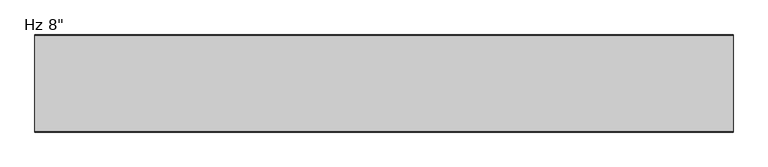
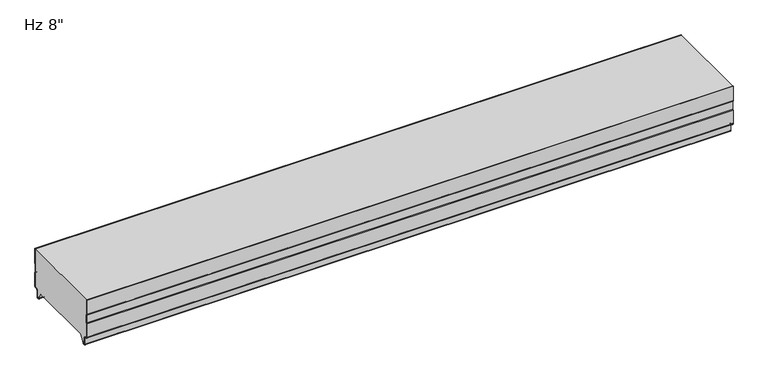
"""IFC4 building model written with IfcOpenShell, lengths in millimetres: plate geometry."""

from ifc_helpers import new_model, si_unit, frame, origin, place, context, project, spatial, polyline, circle_curve, source, transform, mapped, element, save
from ifc_brep_helpers import plane_surface, cylinder_surface, revolved_surface, advanced_brep


def plate_0feda06b(model_context):
    return source(origin(), model_context, "Body", "AdvancedBrep", [
        advanced_brep(
        [(-730.0, -1.0, 59.9218553), (-730.0, -1.0, 94.95), (-730.0, 0.0, 94.95), (-730.0, 0.0, 59.479416), (-730.0, -1.1911595, 58.4068912), (-730.0, -1.1911595, 39.5087751), (-730.0, 0.0, 38.4362503), (-730.0, 0.0, 5.8272193), (-730.0, -2.9772904, 2.8499526), (-730.0, -5.2691742, 2.8499526), (-730.0, -8.2464427, -0.1273159), (-730.0, -8.2464427, -15.7237419), (-730.0, -9.8343193, -17.3116185), (-730.0, -12.905868, -17.3116185), (-730.0, -14.4937445, -15.7237419), (-730.0, -14.4937445, -13.3687064), (-730.0, -13.4937445, -13.3687064), (-730.0, -13.4937445, -15.7237419), (-730.0, -12.905868, -16.3116185), (-730.0, -9.8343193, -16.3116185), (-730.0, -9.2464427, -15.7237419), (-730.0, -9.2464427, -0.1273159), (-730.0, -5.2691742, 3.8499526), (-730.0, -2.9772904, 3.8499526), (-730.0, -1.0000218, 5.82722), (-730.0, -1.0, 37.993811), (-730.0, -2.1911595, 39.0663358), (-730.0, -2.1911595, 58.8493305), (730.0, 0.0, 59.479416), (730.0, 0.0, 94.95), (730.0, -1.0, 94.95), (730.0, -1.0, 59.9218553), (730.0, -2.1911595, 58.8493305), (730.0, -2.1911595, 39.0663358), (730.0, -1.0, 37.993811), (730.0, -1.0, 5.82722), (730.0, -2.9772904, 3.8499526), (730.0, -5.2691742, 3.8499526), (730.0, -9.2464427, -0.1273159), (730.0, -9.2464427, -15.7237419), (730.0, -9.8343193, -16.3116185), (730.0, -12.905868, -16.3116185), (730.0, -13.4937445, -15.7237419), (730.0, -13.4937445, -13.3687064), (730.0, -14.4937445, -13.3687064), (730.0, -14.4937445, -15.7237419), (730.0, -12.905868, -17.3116185), (730.0, -9.8343193, -17.3116185), (730.0, -8.2464427, -15.7237419), (730.0, -8.2464427, -0.1273159), (730.0, -5.2691742, 2.8499526), (730.0, -2.9772904, 2.8499526), (730.0, -2.18e-05, 5.8272193), (730.0, 0.0, 38.4362503), (730.0, -1.1911595, 39.5087751), (730.0, -1.1911595, 58.4068912)],
        [
            (0, 1),
            (1, 2),
            (2, 3),
            (3, 4),
            (4, 5),
            (5, 6),
            (6, 7),
            (7, 8, circle_curve(frame((-730.0, -2.9772904, 5.8272211), z_axis=(-1.0, 0.0, 0.0), x_axis=(0.0, 1.0, 0.0)), 2.9772685)),
            (8, 9),
            (9, 10, circle_curve(frame((-730.0, -5.2691742, -0.1273159), z_axis=(1.0, 0.0, 0.0), x_axis=(0.0, 1.0, 0.0)), 2.9772685)),
            (10, 11),
            (11, 12, circle_curve(frame((-730.0, -9.8343193, -15.7237419), z_axis=(-1.0, 0.0, 0.0), x_axis=(0.0, 1.0, 0.0)), 1.5878765)),
            (12, 13),
            (13, 14, circle_curve(frame((-730.0, -12.905868, -15.7237419), z_axis=(-1.0, 0.0, 0.0), x_axis=(0.0, 1.0, 0.0)), 1.5878765)),
            (14, 15),
            (15, 16),
            (16, 17),
            (17, 18, circle_curve(frame((-730.0, -12.905868, -15.7237419), z_axis=(1.0, 0.0, 0.0), x_axis=(0.0, 1.0, 0.0)), 0.5878765)),
            (18, 19),
            (19, 20, circle_curve(frame((-730.0, -9.8343193, -15.7237419), z_axis=(1.0, 0.0, 0.0), x_axis=(0.0, 1.0, 0.0)), 0.5878765)),
            (20, 21),
            (21, 22, circle_curve(frame((-730.0, -5.2691742, -0.1273159), z_axis=(-1.0, 0.0, 0.0), x_axis=(0.0, 1.0, 0.0)), 3.9772685)),
            (22, 23),
            (23, 24, circle_curve(frame((-730.0, -2.9772904, 5.8272212), z_axis=(1.0, 0.0, 0.0), x_axis=(0.0, 1.0, 0.0)), 1.9772685)),
            (24, 25),
            (25, 26),
            (26, 27),
            (27, 0),
            (28, 29),
            (29, 30),
            (30, 31),
            (31, 32),
            (32, 33),
            (33, 34),
            (34, 35),
            (35, 36, circle_curve(frame((730.0, -2.9772904, 5.8272212), z_axis=(-1.0, 0.0, 0.0), x_axis=(0.0, 1.0, 0.0)), 1.9772685)),
            (36, 37),
            (37, 38, circle_curve(frame((730.0, -5.2691742, -0.1273159), z_axis=(1.0, 0.0, 0.0), x_axis=(0.0, 1.0, 0.0)), 3.9772685)),
            (38, 39),
            (39, 40, circle_curve(frame((730.0, -9.8343193, -15.7237419), z_axis=(-1.0, 0.0, 0.0), x_axis=(0.0, 1.0, 0.0)), 0.5878765)),
            (40, 41),
            (41, 42, circle_curve(frame((730.0, -12.905868, -15.7237419), z_axis=(-1.0, 0.0, 0.0), x_axis=(0.0, 1.0, 0.0)), 0.5878765)),
            (42, 43),
            (43, 44),
            (44, 45),
            (45, 46, circle_curve(frame((730.0, -12.905868, -15.7237419), z_axis=(1.0, 0.0, 0.0), x_axis=(0.0, 1.0, 0.0)), 1.5878765)),
            (46, 47),
            (47, 48, circle_curve(frame((730.0, -9.8343193, -15.7237419), z_axis=(1.0, 0.0, 0.0), x_axis=(0.0, 1.0, 0.0)), 1.5878765)),
            (48, 49),
            (49, 50, circle_curve(frame((730.0, -5.2691742, -0.1273159), z_axis=(-1.0, 0.0, 0.0), x_axis=(0.0, 1.0, 0.0)), 2.9772685)),
            (50, 51),
            (51, 52, circle_curve(frame((730.0, -2.9772904, 5.8272211), z_axis=(1.0, 0.0, 0.0), x_axis=(0.0, 1.0, 0.0)), 2.9772685)),
            (52, 53),
            (53, 54),
            (54, 55),
            (55, 28),
            (30, 1),
            (0, 31),
            (27, 32),
            (26, 33),
            (25, 34),
            (24, 35),
            (23, 36),
            (22, 37),
            (21, 38),
            (20, 39),
            (19, 40),
            (18, 41),
            (17, 42),
            (16, 43),
            (15, 44),
            (14, 45),
            (13, 46),
            (12, 47),
            (11, 48),
            (10, 49),
            (9, 50),
            (8, 51),
            (7, 52),
            (6, 53),
            (5, 54),
            (4, 55),
            (3, 28),
            (2, 29),
        ],
        [
            plane_surface(frame((-730.0, 0.0, 576.2625), z_axis=(-1.0, 0.0, 0.0), x_axis=(0.0, 1.0, 0.0))),
            plane_surface(frame((730.0, 0.0, 576.2625), z_axis=(1.0, 0.0, 0.0), x_axis=(0.0, 1.0, 0.0))),
            plane_surface(frame((-730.0, -1.0, 113.6164312), z_axis=(0.0, -1.0, 0.0), x_axis=(1.0, 0.0, 0.0))),
            plane_surface(frame((-730.0, -1.0, 59.9218553), z_axis=(0.0, -0.6691306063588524, 0.7431448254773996), x_axis=(1.0, 0.0, 0.0))),
            plane_surface(frame((-730.0, -2.1911595, 58.8493305), z_axis=(0.0, -1.0, 0.0), x_axis=(1.0, 0.0, 0.0))),
            plane_surface(frame((-730.0, -2.1911595, 39.0663358), z_axis=(0.0, -0.6691306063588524, -0.7431448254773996), x_axis=(1.0, 0.0, 0.0))),
            plane_surface(frame((-730.0, -1.0, 37.993811), z_axis=(0.0, -1.0, 0.0), x_axis=(1.0, 0.0, 0.0))),
            revolved_surface(polyline([(730.0, -1.0000218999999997, 5.8272212), (-730.0, -1.0000218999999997, 5.8272212)]), (-730.0, -2.9772904, 5.8272212), (1.0, 0.0, 0.0)),
            plane_surface(frame((-730.0, -2.9772904, 3.8499526), z_axis=(0.0, 0.0, 1.0), x_axis=(1.0, 0.0, 0.0))),
            cylinder_surface(frame((-730.0, -5.2691742, -0.1273159), z_axis=(-1.0, 0.0, 0.0), x_axis=(0.0, 1.0, 0.0)), 3.9772685),
            plane_surface(frame((-730.0, -9.2464427, -0.1273159), z_axis=(0.0, -1.0, 0.0), x_axis=(1.0, 0.0, 0.0))),
            revolved_surface(polyline([(730.0, -9.2464428, -15.7237419), (-730.0, -9.2464428, -15.7237419)]), (-730.0, -9.8343193, -15.7237419), (1.0, 0.0, 0.0)),
            plane_surface(frame((-730.0, -9.8343193, -16.3116185), z_axis=(0.0, 0.0, 1.0), x_axis=(1.0, 0.0, 0.0))),
            revolved_surface(polyline([(730.0, -12.3179915, -15.7237419), (-730.0, -12.3179915, -15.7237419)]), (-730.0, -12.905868, -15.7237419), (1.0, 0.0, 0.0)),
            plane_surface(frame((-730.0, -13.4937445, -15.7237419), z_axis=(0.0, 1.0, 0.0), x_axis=(1.0, 0.0, 0.0))),
            plane_surface(frame((-730.0, -13.4937445, -13.3687064), z_axis=(0.0, 0.0, 1.0), x_axis=(1.0, 0.0, 0.0))),
            plane_surface(frame((-730.0, -14.4937445, -13.3687064), z_axis=(0.0, -1.0, 0.0), x_axis=(1.0, 0.0, 0.0))),
            cylinder_surface(frame((-730.0, -12.905868, -15.7237419), z_axis=(-1.0, 0.0, 0.0), x_axis=(0.0, 1.0, 0.0)), 1.5878765),
            plane_surface(frame((-730.0, -12.905868, -17.3116185), z_axis=(0.0, 0.0, -1.0), x_axis=(1.0, 0.0, 0.0))),
            cylinder_surface(frame((-730.0, -9.8343193, -15.7237419), z_axis=(-1.0, 0.0, 0.0), x_axis=(0.0, 1.0, 0.0)), 1.5878765),
            plane_surface(frame((-730.0, -8.2464427, -15.7237419), z_axis=(0.0, 1.0, 0.0), x_axis=(1.0, 0.0, 0.0))),
            revolved_surface(polyline([(730.0, -2.2919057, -0.1273159), (-730.0, -2.2919057, -0.1273159)]), (-730.0, -5.2691742, -0.1273159), (1.0, 0.0, 0.0)),
            plane_surface(frame((-730.0, -5.2691742, 2.8499526), z_axis=(0.0, 0.0, -1.0), x_axis=(1.0, 0.0, 0.0))),
            cylinder_surface(frame((-730.0, -2.9772904, 5.8272211), z_axis=(-1.0, 0.0, 0.0), x_axis=(0.0, 1.0, 0.0)), 2.9772685),
            plane_surface(frame((-730.0, 0.0, 5.8272193), z_axis=(0.0, 1.0, 0.0), x_axis=(1.0, 0.0, 0.0))),
            plane_surface(frame((-730.0, 0.0, 38.4362503), z_axis=(0.0, 0.6691306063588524, 0.7431448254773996), x_axis=(1.0, 0.0, 0.0))),
            plane_surface(frame((-730.0, -1.1911595, 39.5087751), z_axis=(0.0, 1.0, 0.0), x_axis=(1.0, 0.0, 0.0))),
            plane_surface(frame((-730.0, -1.1911595, 58.4068912), z_axis=(0.0, 0.6691306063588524, -0.7431448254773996), x_axis=(1.0, 0.0, 0.0))),
            plane_surface(frame((-730.0, 0.0, 59.479416), z_axis=(0.0, 1.0, 0.0), x_axis=(1.0, 0.0, 0.0))),
            plane_surface(frame((730.0, 10.0, 94.95), z_axis=(0.0, 0.0, 1.0), x_axis=(-1.0, 0.0, 0.0))),
        ],
        [
            (0, [[1, 2, 3, 4, 5, 6, 7, 8, 9, 10, 11, 12, 13, 14, 15, 16, 17, 18, 19, 20, 21, 22, 23, 24, 25, 26, 27, 28]]),
            (1, [[29, 30, 31, 32, 33, 34, 35, 36, 37, 38, 39, 40, 41, 42, 43, 44, 45, 46, 47, 48, 49, 50, 51, 52, 53, 54, 55, 56]]),
            (2, [[-31, 57, -1, 58]]),
            (3, [[59, -32, -58, -28]]),
            (4, [[60, -33, -59, -27]]),
            (5, [[61, -34, -60, -26]]),
            (6, [[62, -35, -61, -25]]),
            (7, [[63, -36, -62, -24]]),
            (8, [[64, -37, -63, -23]]),
            (9, [[65, -38, -64, -22]]),
            (10, [[66, -39, -65, -21]]),
            (11, [[67, -40, -66, -20]]),
            (12, [[68, -41, -67, -19]]),
            (13, [[69, -42, -68, -18]]),
            (14, [[70, -43, -69, -17]]),
            (15, [[71, -44, -70, -16]]),
            (16, [[72, -45, -71, -15]]),
            (17, [[73, -46, -72, -14]]),
            (18, [[74, -47, -73, -13]]),
            (19, [[75, -48, -74, -12]]),
            (20, [[76, -49, -75, -11]]),
            (21, [[77, -50, -76, -10]]),
            (22, [[78, -51, -77, -9]]),
            (23, [[79, -52, -78, -8]]),
            (24, [[80, -53, -79, -7]]),
            (25, [[81, -54, -80, -6]]),
            (26, [[82, -55, -81, -5]]),
            (27, [[83, -56, -82, -4]]),
            (28, [[-3, 84, -29, -83]]),
            (29, [[-57, -30, -84, -2]]),
        ],
    ),
        advanced_brep(
        [(-730.0, -203.2, 59.479416), (-730.0, -203.2, 94.95), (-730.0, -202.2, 94.95), (-730.0, -202.2, 59.9218553), (-730.0, -201.0088405, 58.8493305), (-730.0, -201.0088405, 39.0663358), (-730.0, -202.2, 37.993811), (-730.0, -202.2, 5.82722), (-730.0, -200.2227096, 3.8499526), (-730.0, -197.9308258, 3.8499526), (-730.0, -193.9535573, -0.1273159), (-730.0, -193.9535573, -15.7237419), (-730.0, -193.3656807, -16.3116185), (-730.0, -190.294132, -16.3116185), (-730.0, -189.7062555, -15.7237419), (-730.0, -189.7062555, -13.3687064), (-730.0, -188.7062555, -13.3687064), (-730.0, -188.7062555, -15.7237419), (-730.0, -190.294132, -17.3116185), (-730.0, -193.3656807, -17.3116185), (-730.0, -194.9535573, -15.7237419), (-730.0, -194.9535573, -0.1273159), (-730.0, -197.9308258, 2.8499526), (-730.0, -200.2227096, 2.8499526), (-730.0, -203.1999782, 5.8272193), (-730.0, -203.2, 38.4362503), (-730.0, -202.0088405, 39.5087751), (-730.0, -202.0088405, 58.4068912), (730.0, -202.2, 59.9218553), (730.0, -202.2, 94.95), (730.0, -203.2, 94.95), (730.0, -203.2, 59.479416), (730.0, -202.0088405, 58.4068912), (730.0, -202.0088405, 39.5087751), (730.0, -203.2, 38.4362503), (730.0, -203.2, 5.8272193), (730.0, -200.2227096, 2.8499526), (730.0, -197.9308258, 2.8499526), (730.0, -194.9535573, -0.1273159), (730.0, -194.9535573, -15.7237419), (730.0, -193.3656807, -17.3116185), (730.0, -190.294132, -17.3116185), (730.0, -188.7062555, -15.7237419), (730.0, -188.7062555, -13.3687064), (730.0, -189.7062555, -13.3687064), (730.0, -189.7062555, -15.7237419), (730.0, -190.294132, -16.3116185), (730.0, -193.3656807, -16.3116185), (730.0, -193.9535573, -15.7237419), (730.0, -193.9535573, -0.1273159), (730.0, -197.9308258, 3.8499526), (730.0, -200.2227096, 3.8499526), (730.0, -202.1999782, 5.82722), (730.0, -202.2, 37.993811), (730.0, -201.0088405, 39.0663358), (730.0, -201.0088405, 58.8493305)],
        [
            (0, 1),
            (1, 2),
            (2, 3),
            (3, 4),
            (4, 5),
            (5, 6),
            (6, 7),
            (7, 8, circle_curve(frame((-730.0, -200.2227096, 5.8272212), z_axis=(1.0, 0.0, 0.0), x_axis=(0.0, 0.0, -1.0)), 1.9772685)),
            (8, 9),
            (9, 10, circle_curve(frame((-730.0, -197.9308258, -0.1273159), z_axis=(-1.0, 0.0, 0.0), x_axis=(0.0, 0.0, -1.0)), 3.9772685)),
            (10, 11),
            (11, 12, circle_curve(frame((-730.0, -193.3656807, -15.7237419), z_axis=(1.0, 0.0, 0.0), x_axis=(0.0, 0.0, -1.0)), 0.5878765)),
            (12, 13),
            (13, 14, circle_curve(frame((-730.0, -190.294132, -15.7237419), z_axis=(1.0, 0.0, 0.0), x_axis=(0.0, 0.0, -1.0)), 0.5878765)),
            (14, 15),
            (15, 16),
            (16, 17),
            (17, 18, circle_curve(frame((-730.0, -190.294132, -15.7237419), z_axis=(-1.0, 0.0, 0.0), x_axis=(0.0, 0.0, -1.0)), 1.5878765)),
            (18, 19),
            (19, 20, circle_curve(frame((-730.0, -193.3656807, -15.7237419), z_axis=(-1.0, 0.0, 0.0), x_axis=(0.0, 0.0, -1.0)), 1.5878765)),
            (20, 21),
            (21, 22, circle_curve(frame((-730.0, -197.9308258, -0.1273159), z_axis=(1.0, 0.0, 0.0), x_axis=(0.0, 0.0, -1.0)), 2.9772685)),
            (22, 23),
            (23, 24, circle_curve(frame((-730.0, -200.2227096, 5.8272211), z_axis=(-1.0, 0.0, 0.0), x_axis=(0.0, 0.0, -1.0)), 2.9772685)),
            (24, 25),
            (25, 26),
            (26, 27),
            (27, 0),
            (28, 29),
            (29, 30),
            (30, 31),
            (31, 32),
            (32, 33),
            (33, 34),
            (34, 35),
            (35, 36, circle_curve(frame((730.0, -200.2227096, 5.8272211), z_axis=(1.0, 0.0, 0.0), x_axis=(0.0, 0.0, -1.0)), 2.9772685)),
            (36, 37),
            (37, 38, circle_curve(frame((730.0, -197.9308258, -0.1273159), z_axis=(-1.0, 0.0, 0.0), x_axis=(0.0, 0.0, -1.0)), 2.9772685)),
            (38, 39),
            (39, 40, circle_curve(frame((730.0, -193.3656807, -15.7237419), z_axis=(1.0, 0.0, 0.0), x_axis=(0.0, 0.0, -1.0)), 1.5878765)),
            (40, 41),
            (41, 42, circle_curve(frame((730.0, -190.294132, -15.7237419), z_axis=(1.0, 0.0, 0.0), x_axis=(0.0, 0.0, -1.0)), 1.5878765)),
            (42, 43),
            (43, 44),
            (44, 45),
            (45, 46, circle_curve(frame((730.0, -190.294132, -15.7237419), z_axis=(-1.0, 0.0, 0.0), x_axis=(0.0, 0.0, -1.0)), 0.5878765)),
            (46, 47),
            (47, 48, circle_curve(frame((730.0, -193.3656807, -15.7237419), z_axis=(-1.0, 0.0, 0.0), x_axis=(0.0, 0.0, -1.0)), 0.5878765)),
            (48, 49),
            (49, 50, circle_curve(frame((730.0, -197.9308258, -0.1273159), z_axis=(1.0, 0.0, 0.0), x_axis=(0.0, 0.0, -1.0)), 3.9772685)),
            (50, 51),
            (51, 52, circle_curve(frame((730.0, -200.2227096, 5.8272212), z_axis=(-1.0, 0.0, 0.0), x_axis=(0.0, 0.0, -1.0)), 1.9772685)),
            (52, 53),
            (53, 54),
            (54, 55),
            (55, 28),
            (1, 30),
            (29, 2),
            (0, 31),
            (27, 32),
            (26, 33),
            (25, 34),
            (24, 35),
            (23, 36),
            (22, 37),
            (21, 38),
            (20, 39),
            (19, 40),
            (18, 41),
            (17, 42),
            (16, 43),
            (15, 44),
            (14, 45),
            (13, 46),
            (12, 47),
            (11, 48),
            (10, 49),
            (9, 50),
            (8, 51),
            (7, 52),
            (6, 53),
            (5, 54),
            (4, 55),
            (3, 28),
        ],
        [
            plane_surface(frame((-730.0, -203.2, 576.2625), z_axis=(-1.0, 0.0, 0.0), x_axis=(0.0, -1.0, 0.0))),
            plane_surface(frame((730.0, -203.2, 576.2625), z_axis=(1.0, 0.0, 0.0), x_axis=(0.0, -1.0, 0.0))),
            plane_surface(frame((730.0, 10.0, 94.95), z_axis=(0.0, 0.0, 1.0), x_axis=(-1.0, 0.0, 0.0))),
            plane_surface(frame((-730.0, -203.2, 114.0588705), z_axis=(0.0, -1.0, 0.0), x_axis=(1.0, 0.0, 0.0))),
            plane_surface(frame((-730.0, -203.2, 59.479416), z_axis=(0.0, -0.6691306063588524, -0.7431448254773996), x_axis=(1.0, 0.0, 0.0))),
            plane_surface(frame((-730.0, -202.0088405, 58.4068912), z_axis=(0.0, -1.0, 0.0), x_axis=(1.0, 0.0, 0.0))),
            plane_surface(frame((-730.0, -202.0088405, 39.5087751), z_axis=(0.0, -0.6691306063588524, 0.7431448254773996), x_axis=(1.0, 0.0, 0.0))),
            plane_surface(frame((-730.0, -203.2, 38.4362503), z_axis=(0.0, -1.0, 0.0), x_axis=(1.0, 0.0, 0.0))),
            cylinder_surface(frame((-730.0, -200.2227096, 5.8272211), z_axis=(-1.0, 0.0, 0.0), x_axis=(0.0, 0.0, -1.0)), 2.9772685),
            plane_surface(frame((-730.0, -200.2227096, 2.8499526), z_axis=(0.0, 0.0, -1.0), x_axis=(1.0, 0.0, 0.0))),
            revolved_surface(polyline([(730.0, -197.9308258, -3.1045844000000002), (-730.0, -197.9308258, -3.1045844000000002)]), (-730.0, -197.9308258, -0.1273159), (1.0, 0.0, 0.0)),
            plane_surface(frame((-730.0, -194.9535573, -0.1273159), z_axis=(0.0, -1.0, 0.0), x_axis=(1.0, 0.0, 0.0))),
            cylinder_surface(frame((-730.0, -193.3656807, -15.7237419), z_axis=(-1.0, 0.0, 0.0), x_axis=(0.0, 0.0, -1.0)), 1.5878765),
            plane_surface(frame((-730.0, -193.3656807, -17.3116185), z_axis=(0.0, 0.0, -1.0), x_axis=(1.0, 0.0, 0.0))),
            cylinder_surface(frame((-730.0, -190.294132, -15.7237419), z_axis=(-1.0, 0.0, 0.0), x_axis=(0.0, 0.0, -1.0)), 1.5878765),
            plane_surface(frame((-730.0, -188.7062555, -15.7237419), z_axis=(0.0, 1.0, 0.0), x_axis=(1.0, 0.0, 0.0))),
            plane_surface(frame((-730.0, -188.7062555, -13.3687064), z_axis=(0.0, 0.0, 1.0), x_axis=(1.0, 0.0, 0.0))),
            plane_surface(frame((-730.0, -189.7062555, -13.3687064), z_axis=(0.0, -1.0, 0.0), x_axis=(1.0, 0.0, 0.0))),
            revolved_surface(polyline([(730.0, -190.294132, -16.3116184), (-730.0, -190.294132, -16.3116184)]), (-730.0, -190.294132, -15.7237419), (1.0, 0.0, 0.0)),
            plane_surface(frame((-730.0, -190.294132, -16.3116185), z_axis=(0.0, 0.0, 1.0), x_axis=(1.0, 0.0, 0.0))),
            revolved_surface(polyline([(730.0, -193.3656807, -16.3116184), (-730.0, -193.3656807, -16.3116184)]), (-730.0, -193.3656807, -15.7237419), (1.0, 0.0, 0.0)),
            plane_surface(frame((-730.0, -193.9535573, -15.7237419), z_axis=(0.0, 1.0, 0.0), x_axis=(1.0, 0.0, 0.0))),
            cylinder_surface(frame((-730.0, -197.9308258, -0.1273159), z_axis=(-1.0, 0.0, 0.0), x_axis=(0.0, 0.0, -1.0)), 3.9772685),
            plane_surface(frame((-730.0, -197.9308258, 3.8499526), z_axis=(0.0, 0.0, 1.0), x_axis=(1.0, 0.0, 0.0))),
            revolved_surface(polyline([(730.0, -200.2227096, 3.8499527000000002), (-730.0, -200.2227096, 3.8499527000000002)]), (-730.0, -200.2227096, 5.8272212), (1.0, 0.0, 0.0)),
            plane_surface(frame((-730.0, -202.2, 5.82722), z_axis=(0.0, 1.0, 0.0), x_axis=(1.0, 0.0, 0.0))),
            plane_surface(frame((-730.0, -202.2, 37.993811), z_axis=(0.0, 0.6691306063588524, -0.7431448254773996), x_axis=(1.0, 0.0, 0.0))),
            plane_surface(frame((-730.0, -201.0088405, 39.0663358), z_axis=(0.0, 1.0, 0.0), x_axis=(1.0, 0.0, 0.0))),
            plane_surface(frame((-730.0, -201.0088405, 58.8493305), z_axis=(0.0, 0.6691306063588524, 0.7431448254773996), x_axis=(1.0, 0.0, 0.0))),
            plane_surface(frame((-730.0, -202.2, 59.9218553), z_axis=(0.0, 1.0, 0.0), x_axis=(1.0, 0.0, 0.0))),
        ],
        [
            (0, [[1, 2, 3, 4, 5, 6, 7, 8, 9, 10, 11, 12, 13, 14, 15, 16, 17, 18, 19, 20, 21, 22, 23, 24, 25, 26, 27, 28]]),
            (1, [[29, 30, 31, 32, 33, 34, 35, 36, 37, 38, 39, 40, 41, 42, 43, 44, 45, 46, 47, 48, 49, 50, 51, 52, 53, 54, 55, 56]]),
            (2, [[57, -30, 58, -2]]),
            (3, [[-31, -57, -1, 59]]),
            (4, [[60, -32, -59, -28]]),
            (5, [[61, -33, -60, -27]]),
            (6, [[62, -34, -61, -26]]),
            (7, [[63, -35, -62, -25]]),
            (8, [[64, -36, -63, -24]]),
            (9, [[65, -37, -64, -23]]),
            (10, [[66, -38, -65, -22]]),
            (11, [[67, -39, -66, -21]]),
            (12, [[68, -40, -67, -20]]),
            (13, [[69, -41, -68, -19]]),
            (14, [[70, -42, -69, -18]]),
            (15, [[71, -43, -70, -17]]),
            (16, [[72, -44, -71, -16]]),
            (17, [[73, -45, -72, -15]]),
            (18, [[74, -46, -73, -14]]),
            (19, [[75, -47, -74, -13]]),
            (20, [[76, -48, -75, -12]]),
            (21, [[77, -49, -76, -11]]),
            (22, [[78, -50, -77, -10]]),
            (23, [[79, -51, -78, -9]]),
            (24, [[80, -52, -79, -8]]),
            (25, [[81, -53, -80, -7]]),
            (26, [[82, -54, -81, -6]]),
            (27, [[83, -55, -82, -5]]),
            (28, [[84, -56, -83, -4]]),
            (29, [[-3, -58, -29, -84]]),
        ],
    ),
        advanced_brep(
        [(-730.0, -202.2, 59.9218553), (-730.0, -202.2, 94.95), (-730.0, -1.0, 94.95), (-730.0, -1.0, 59.9218553), (-730.0, -2.1911595, 58.8493305), (-730.0, -2.1911595, 39.0663358), (-730.0, -1.0000109, 37.993811), (-730.0, -1.0000109, 5.8272239), (-730.0, -2.9772849, 3.8499499), (-730.0, -5.2691749, 3.8499499), (-730.0, -9.246442, -0.1273173), (-730.0, -9.246442, -15.7237417), (-730.0, -9.8343189, -16.3116186), (-730.0, -12.9058679, -16.3116186), (-730.0, -13.4937446, -15.723742), (-730.0, -13.4937446, -13.3687064), (-730.0, -14.4937446, -13.3687064), (-730.0, -14.4937446, -15.6582851), (-730.0, -23.7509179, 0.0), (-730.0, -179.4490865, 0.0), (-730.0, -188.7062554, -15.6582851), (-730.0, -188.7062554, -13.3687064), (-730.0, -189.7062554, -13.3687064), (-730.0, -189.7062554, -15.723742), (-730.0, -190.2941321, -16.3116186), (-730.0, -193.3656811, -16.3116186), (-730.0, -193.953558, -15.7237417), (-730.0, -193.953558, -0.1273173), (-730.0, -197.9308251, 3.8499499), (-730.0, -200.2227151, 3.8499499), (-730.0, -202.1999891, 5.8272239), (-730.0, -202.1999891, 37.993811), (-730.0, -201.0088405, 39.0663358), (-730.0, -201.0088405, 58.8493305), (730.0, -179.4490865, 0.0), (730.0, -23.7509179, 0.0), (730.0, -14.4937446, -15.6582851), (730.0, -14.4937446, -13.3687064), (730.0, -13.4937446, -13.3687064), (730.0, -13.4937446, -15.723742), (730.0, -12.9058679, -16.3116186), (730.0, -9.8343189, -16.3116186), (730.0, -9.246442, -15.7237417), (730.0, -9.246442, -0.1273173), (730.0, -5.2691749, 3.8499499), (730.0, -2.9772849, 3.8499499), (730.0, -1.0000109, 5.8272239), (730.0, -1.0000109, 37.993811), (730.0, -2.1911595, 39.0663358), (730.0, -2.1911595, 58.8493305), (730.0, -1.0, 59.9218553), (730.0, -1.0, 94.95), (730.0, -202.2, 94.95), (730.0, -202.2, 59.9218553), (730.0, -201.0088405, 58.8493305), (730.0, -201.0088405, 39.0663358), (730.0, -202.1999891, 37.993811), (730.0, -202.1999891, 5.8272239), (730.0, -200.2227151, 3.8499499), (730.0, -197.9308251, 3.8499499), (730.0, -193.953558, -0.1273173), (730.0, -193.953558, -15.7237417), (730.0, -193.3656811, -16.3116186), (730.0, -190.2941321, -16.3116186), (730.0, -189.7062554, -15.723742), (730.0, -189.7062554, -13.3687064), (730.0, -188.7062554, -13.3687064), (730.0, -188.7062554, -15.6582851)],
        [
            (0, 1),
            (1, 2),
            (2, 3),
            (3, 4),
            (4, 5),
            (5, 6),
            (6, 7),
            (7, 8, circle_curve(frame((-730.0, -2.9772849, 5.8272239), z_axis=(-1.0, 0.0, 0.0), x_axis=(0.0, 1.0, 0.0)), 1.977274)),
            (8, 9),
            (9, 10, circle_curve(frame((-730.0, -5.2691749, -0.1273173), z_axis=(1.0, 0.0, 0.0), x_axis=(0.0, 1.0, 0.0)), 3.9772671)),
            (10, 11),
            (11, 12, circle_curve(frame((-730.0, -9.8343189, -15.7237417), z_axis=(-1.0, 0.0, 0.0), x_axis=(0.0, 1.0, 0.0)), 0.5878769)),
            (12, 13),
            (13, 14, circle_curve(frame((-730.0, -12.9058679, -15.723742), z_axis=(-1.0, 0.0, 0.0), x_axis=(0.0, 1.0, 0.0)), 0.5878766)),
            (14, 15),
            (15, 16),
            (16, 17),
            (17, 18),
            (18, 19),
            (19, 20),
            (20, 21),
            (21, 22),
            (22, 23),
            (23, 24, circle_curve(frame((-730.0, -190.2941321, -15.723742), z_axis=(-1.0, 0.0, 0.0), x_axis=(0.0, 0.0, -1.0)), 0.5878766)),
            (24, 25),
            (25, 26, circle_curve(frame((-730.0, -193.3656811, -15.7237417), z_axis=(-1.0, 0.0, 0.0), x_axis=(0.0, 0.0, -1.0)), 0.5878769)),
            (26, 27),
            (27, 28, circle_curve(frame((-730.0, -197.9308251, -0.1273173), z_axis=(1.0, 0.0, 0.0), x_axis=(0.0, 0.0, -1.0)), 3.9772671)),
            (28, 29),
            (29, 30, circle_curve(frame((-730.0, -200.2227151, 5.8272239), z_axis=(-1.0, 0.0, 0.0), x_axis=(0.0, 0.0, -1.0)), 1.977274)),
            (30, 31),
            (31, 32),
            (32, 33),
            (33, 0),
            (34, 35),
            (35, 36),
            (36, 37),
            (37, 38),
            (38, 39),
            (39, 40, circle_curve(frame((730.0, -12.9058679, -15.723742), z_axis=(1.0, 0.0, 0.0), x_axis=(0.0, 1.0, 0.0)), 0.5878766)),
            (40, 41),
            (41, 42, circle_curve(frame((730.0, -9.8343189, -15.7237417), z_axis=(1.0, 0.0, 0.0), x_axis=(0.0, 1.0, 0.0)), 0.5878769)),
            (42, 43),
            (43, 44, circle_curve(frame((730.0, -5.2691749, -0.1273173), z_axis=(-1.0, 0.0, 0.0), x_axis=(0.0, 1.0, 0.0)), 3.9772671)),
            (44, 45),
            (45, 46, circle_curve(frame((730.0, -2.9772849, 5.8272239), z_axis=(1.0, 0.0, 0.0), x_axis=(0.0, 1.0, 0.0)), 1.977274)),
            (46, 47),
            (47, 48),
            (48, 49),
            (49, 50),
            (50, 51),
            (51, 52),
            (52, 53),
            (53, 54),
            (54, 55),
            (55, 56),
            (56, 57),
            (57, 58, circle_curve(frame((730.0, -200.2227151, 5.8272239), z_axis=(1.0, 0.0, 0.0), x_axis=(0.0, 0.0, -1.0)), 1.977274)),
            (58, 59),
            (59, 60, circle_curve(frame((730.0, -197.9308251, -0.1273173), z_axis=(-1.0, 0.0, 0.0), x_axis=(0.0, 0.0, -1.0)), 3.9772671)),
            (60, 61),
            (61, 62, circle_curve(frame((730.0, -193.3656811, -15.7237417), z_axis=(1.0, 0.0, 0.0), x_axis=(0.0, 0.0, -1.0)), 0.5878769)),
            (62, 63),
            (63, 64, circle_curve(frame((730.0, -190.2941321, -15.723742), z_axis=(1.0, 0.0, 0.0), x_axis=(0.0, 0.0, -1.0)), 0.5878766)),
            (64, 65),
            (65, 66),
            (66, 67),
            (67, 34),
            (17, 36),
            (35, 18),
            (16, 37),
            (15, 38),
            (14, 39),
            (13, 40),
            (12, 41),
            (11, 42),
            (10, 43),
            (9, 44),
            (8, 45),
            (7, 46),
            (6, 47),
            (5, 48),
            (4, 49),
            (3, 50),
            (2, 51),
            (34, 19),
            (1, 52),
            (0, 53),
            (33, 54),
            (32, 55),
            (31, 56),
            (30, 57),
            (29, 58),
            (28, 59),
            (27, 60),
            (26, 61),
            (25, 62),
            (24, 63),
            (23, 64),
            (22, 65),
            (21, 66),
            (20, 67),
        ],
        [
            plane_surface(frame((-730.0, -202.2, 576.2625), z_axis=(-1.0, 0.0, 0.0), x_axis=(0.0, -1.0, 0.0))),
            plane_surface(frame((730.0, -202.2, 576.2625), z_axis=(1.0, 0.0, 0.0), x_axis=(0.0, -1.0, 0.0))),
            plane_surface(frame((-730.0, -23.7509179, 0.0), z_axis=(0.0, -0.8608169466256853, -0.5089147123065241), x_axis=(1.0, 0.0, 0.0))),
            plane_surface(frame((-730.0, -14.4937446, -15.6582851), z_axis=(0.0, 1.0, 0.0), x_axis=(1.0, 0.0, 0.0))),
            plane_surface(frame((-730.0, -14.4937446, -13.3687064), z_axis=(0.0, 0.0, -1.0), x_axis=(1.0, 0.0, 0.0))),
            plane_surface(frame((-730.0, -13.4937446, -13.3687064), z_axis=(0.0, -1.0, 0.0), x_axis=(1.0, 0.0, 0.0))),
            cylinder_surface(frame((-730.0, -12.9058679, -15.723742), z_axis=(-1.0, 0.0, 0.0), x_axis=(0.0, 1.0, 0.0)), 0.5878766),
            plane_surface(frame((-730.0, -12.9058679, -16.3116186), z_axis=(0.0, 0.0, -1.0), x_axis=(1.0, 0.0, 0.0))),
            cylinder_surface(frame((-730.0, -9.8343189, -15.7237417), z_axis=(-1.0, 0.0, 0.0), x_axis=(0.0, 1.0, 0.0)), 0.5878769),
            plane_surface(frame((-730.0, -9.246442, -15.7237417), z_axis=(0.0, 1.0, 0.0), x_axis=(1.0, 0.0, 0.0))),
            revolved_surface(polyline([(730.0, -1.2919078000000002, -0.1273173), (-730.0, -1.2919078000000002, -0.1273173)]), (-730.0, -5.2691749, -0.1273173), (1.0, 0.0, 0.0)),
            plane_surface(frame((-730.0, -5.2691749, 3.8499499), z_axis=(0.0, 0.0, -1.0), x_axis=(1.0, 0.0, 0.0))),
            cylinder_surface(frame((-730.0, -2.9772849, 5.8272239), z_axis=(-1.0, 0.0, 0.0), x_axis=(0.0, 1.0, 0.0)), 1.977274),
            plane_surface(frame((-730.0, -1.0000109, 5.8272239), z_axis=(0.0, 1.0, 0.0), x_axis=(1.0, 0.0, 0.0))),
            plane_surface(frame((-730.0, -1.0000109, 37.993811), z_axis=(0.0, 0.6691339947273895, 0.7431417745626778), x_axis=(1.0, 0.0, 0.0))),
            plane_surface(frame((-730.0, -2.1911595, 39.0663358), z_axis=(0.0, 1.0, 0.0), x_axis=(1.0, 0.0, 0.0))),
            plane_surface(frame((-730.0, -2.1911595, 58.8493305), z_axis=(0.0, 0.6691306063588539, -0.7431448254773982), x_axis=(1.0, 0.0, 0.0))),
            plane_surface(frame((-730.0, -1.0, 59.9218553), z_axis=(0.0, 1.0, 0.0), x_axis=(1.0, 0.0, 0.0))),
            plane_surface(frame((-730.0, -179.4490865, 0.0), z_axis=(0.0, 0.0, -1.0), x_axis=(1.0, 0.0, 0.0))),
            plane_surface(frame((730.0, 10.0, 94.95), z_axis=(0.0, 0.0, 1.0), x_axis=(-1.0, 0.0, 0.0))),
            plane_surface(frame((-730.0, -202.2, 113.6164312), z_axis=(0.0, -1.0, 0.0), x_axis=(1.0, 0.0, 0.0))),
            plane_surface(frame((-730.0, -202.2, 59.9218553), z_axis=(0.0, -0.6691306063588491, -0.7431448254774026), x_axis=(1.0, 0.0, 0.0))),
            plane_surface(frame((-730.0, -201.0088405, 58.8493305), z_axis=(0.0, -1.0, 0.0), x_axis=(1.0, 0.0, 0.0))),
            plane_surface(frame((-730.0, -201.0088405, 39.0663358), z_axis=(0.0, -0.6691339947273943, 0.7431417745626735), x_axis=(1.0, 0.0, 0.0))),
            plane_surface(frame((-730.0, -202.1999891, 37.993811), z_axis=(0.0, -1.0, 0.0), x_axis=(1.0, 0.0, 0.0))),
            cylinder_surface(frame((-730.0, -200.2227151, 5.8272239), z_axis=(-1.0, 0.0, 0.0), x_axis=(0.0, 0.0, -1.0)), 1.977274),
            plane_surface(frame((-730.0, -200.2227151, 3.8499499), z_axis=(0.0, 0.0, -1.0), x_axis=(1.0, 0.0, 0.0))),
            revolved_surface(polyline([(730.0, -197.9308251, -4.1045844), (-730.0, -197.9308251, -4.1045844)]), (-730.0, -197.9308251, -0.1273173), (1.0, 0.0, 0.0)),
            plane_surface(frame((-730.0, -193.953558, -0.1273173), z_axis=(0.0, -1.0, 0.0), x_axis=(1.0, 0.0, 0.0))),
            cylinder_surface(frame((-730.0, -193.3656811, -15.7237417), z_axis=(-1.0, 0.0, 0.0), x_axis=(0.0, 0.0, -1.0)), 0.5878769),
            plane_surface(frame((-730.0, -193.3656811, -16.3116186), z_axis=(0.0, 0.0, -1.0), x_axis=(1.0, 0.0, 0.0))),
            cylinder_surface(frame((-730.0, -190.2941321, -15.723742), z_axis=(-1.0, 0.0, 0.0), x_axis=(0.0, 0.0, -1.0)), 0.5878766),
            plane_surface(frame((-730.0, -189.7062554, -15.723742), z_axis=(0.0, 1.0, 0.0), x_axis=(1.0, 0.0, 0.0))),
            plane_surface(frame((-730.0, -189.7062554, -13.3687064), z_axis=(0.0, 0.0, -1.0), x_axis=(1.0, 0.0, 0.0))),
            plane_surface(frame((-730.0, -188.7062554, -13.3687064), z_axis=(0.0, -1.0, 0.0), x_axis=(1.0, 0.0, 0.0))),
            plane_surface(frame((-730.0, -188.7062554, -15.6582851), z_axis=(0.0, 0.8608169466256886, -0.5089147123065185), x_axis=(1.0, 0.0, 0.0))),
        ],
        [
            (0, [[1, 2, 3, 4, 5, 6, 7, 8, 9, 10, 11, 12, 13, 14, 15, 16, 17, 18, 19, 20, 21, 22, 23, 24, 25, 26, 27, 28, 29, 30, 31, 32, 33, 34]]),
            (1, [[35, 36, 37, 38, 39, 40, 41, 42, 43, 44, 45, 46, 47, 48, 49, 50, 51, 52, 53, 54, 55, 56, 57, 58, 59, 60, 61, 62, 63, 64, 65, 66, 67, 68]]),
            (2, [[69, -36, 70, -18]]),
            (3, [[71, -37, -69, -17]]),
            (4, [[72, -38, -71, -16]]),
            (5, [[73, -39, -72, -15]]),
            (6, [[74, -40, -73, -14]]),
            (7, [[75, -41, -74, -13]]),
            (8, [[76, -42, -75, -12]]),
            (9, [[77, -43, -76, -11]]),
            (10, [[78, -44, -77, -10]]),
            (11, [[79, -45, -78, -9]]),
            (12, [[80, -46, -79, -8]]),
            (13, [[81, -47, -80, -7]]),
            (14, [[82, -48, -81, -6]]),
            (15, [[83, -49, -82, -5]]),
            (16, [[84, -50, -83, -4]]),
            (17, [[-3, 85, -51, -84]]),
            (18, [[86, -19, -70, -35]]),
            (19, [[87, -52, -85, -2]]),
            (20, [[-53, -87, -1, 88]]),
            (21, [[89, -54, -88, -34]]),
            (22, [[90, -55, -89, -33]]),
            (23, [[91, -56, -90, -32]]),
            (24, [[92, -57, -91, -31]]),
            (25, [[93, -58, -92, -30]]),
            (26, [[94, -59, -93, -29]]),
            (27, [[95, -60, -94, -28]]),
            (28, [[96, -61, -95, -27]]),
            (29, [[97, -62, -96, -26]]),
            (30, [[98, -63, -97, -25]]),
            (31, [[99, -64, -98, -24]]),
            (32, [[100, -65, -99, -23]]),
            (33, [[101, -66, -100, -22]]),
            (34, [[102, -67, -101, -21]]),
            (35, [[-86, -68, -102, -20]]),
        ],
    ),
    ])


if __name__ == "__main__":
    model = new_model("IFC4")
    model_context = context("Model", 3, world=origin())
    ifc_project = project(units=[si_unit("LENGTHUNIT", "METRE", prefix="MILLI")], contexts=[model_context])
    site = spatial("IfcSite", under=ifc_project)
    building = spatial("IfcBuilding", under=site)
    placement = place(None, origin())
    plate_shape = plate_0feda06b(model_context)
    element("IfcPlate", 1, ObjectType="KIP-SLI-FLI-R19-CP-Hz-SL_SL : Hz 8\"", at=placement, inside=building, context=model_context, shape_type="MappedRepresentation", body=[
        mapped(plate_shape, transform((0.0, 0.0, 0.0), x_axis=(1.0, 0.0, 0.0), y_axis=(0.0, 1.0, 0.0), z_axis=(0.0, 0.0, 1.0))),
    ])
    save(model, "model.ifc")
